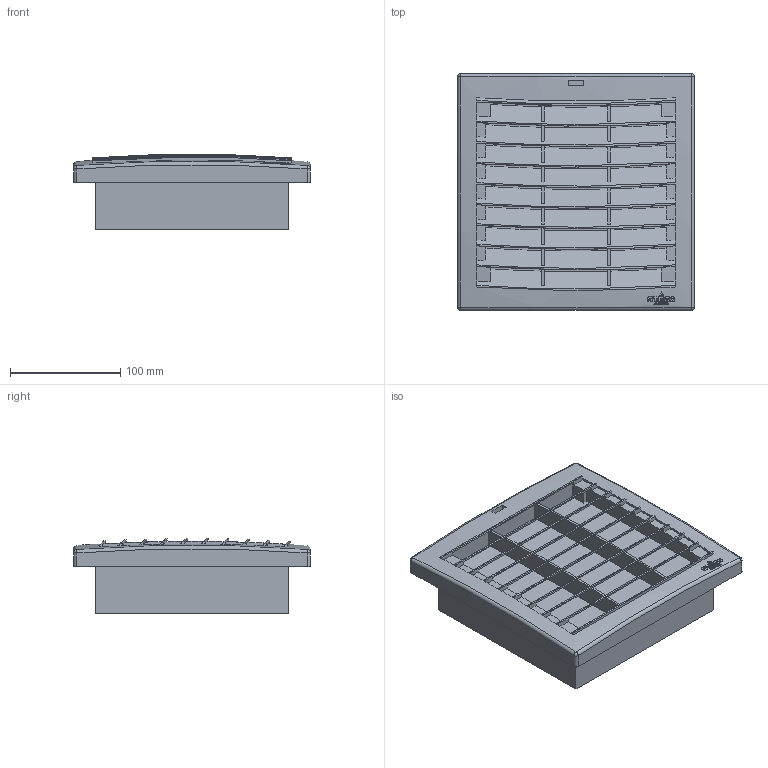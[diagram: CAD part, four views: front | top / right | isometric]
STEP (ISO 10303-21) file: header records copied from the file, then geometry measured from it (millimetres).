
FILE_DESCRIPTION (( 'STEP AP214' ), '1' );
FILE_NAME ('FPI_118_176x176_EPLAN_10_2015.STEP', '2015-10-15T12:38:52', ( '' ), ( '' ), 'SwSTEP 2.0', 'SolidWorks 2015', '' );
FILE_SCHEMA (( 'AUTOMOTIVE_DESIGN' ));
Length unit declared in the file: millimetre
Products named in the file (1): FPI_118_176x176_EPLAN_10_2015
Bounding box: 215 x 215 x 68.39 mm (x, y, z)
Surface area: 223181.8 mm2 (no closed solid volume)
Topology: 0 solids, 17 shells, 197 faces, 1029 edges, 785 vertices
Faces by surface type: plane 96, sphere 68, bspline 23, cylinder 6, torus 4
Entity records: 13658 total; most frequent: CARTESIAN_POINT 3570, DIRECTION 1681, ORIENTED_EDGE 1505, EDGE_CURVE 1025, VERTEX_POINT 785, AXIS2_PLACEMENT_3D 630, CIRCLE 455, LINE 421
